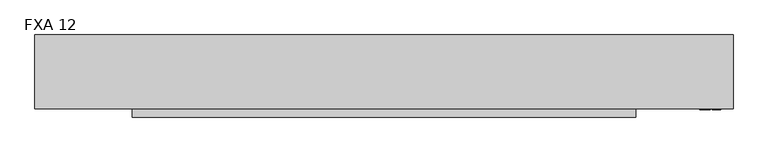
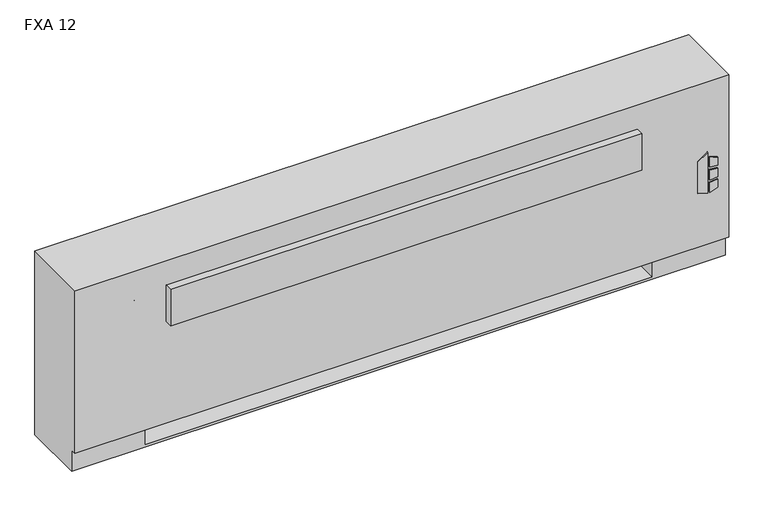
"""IFC4 building model written with IfcOpenShell, lengths in millimetres: proxy geometry, Vertical_Fan_Coil_Unit_-_FXA_-_IEC_-_2-Pipe_FS-FR_LH_2022 : FXA 12."""

from ifc_helpers import new_model, si_unit, point, frame, frame_2d, origin, place, context, project, spatial, polyline, circle_curve, trimmed, segment, composite_curve, outline, extrude, source, transform, mapped, element, save
from ifc_brep_helpers import plane_surface, revolved_surface, advanced_brep


def fxa_12_0588f1cb(model_context):
    return source(origin(), model_context, "Body", "SolidModel", [
        extrude(outline(polyline([(263.9480703, 1128.7868862), (254.0, 1160.9602728), (396.1709244, 1160.9602728), (373.1489183, 1128.7868862), (263.9480703, 1128.7868862)])), frame((0.0, 12.7, 0.0), z_axis=(0.0, 1.0, 0.0), x_axis=(0.0, 0.0, 1.0)), (0.0, 0.0, 1.0), 3.175),
        extrude(outline(polyline([(342.9473557, 1167.7186058), (339.7449632, 1193.8), (368.9738042, 1193.8), (377.0382193, 1167.7186058), (342.9473557, 1167.7186058)])), frame((0.0, 12.7, 0.0), z_axis=(0.0, 1.0, 0.0), x_axis=(0.0, 0.0, 1.0)), (0.0, 0.0, 1.0), 3.175),
        extrude(outline(polyline([(291.0838288, 1193.8), (287.4183279, 1167.7186058), (254.0, 1167.7186058), (262.6342372, 1193.8), (291.0838288, 1193.8)])), frame((0.0, 12.7, 0.0), z_axis=(0.0, 1.0, 0.0), x_axis=(0.0, 0.0, 1.0)), (0.0, 0.0, 1.0), 3.175),
        extrude(outline(polyline([(330.3989903, 1193.8), (332.6808166, 1167.7186058), (296.7432681, 1167.7186058), (299.4845331, 1193.8), (330.3989903, 1193.8)])), frame((0.0, 12.7, 0.0), z_axis=(0.0, 1.0, 0.0), x_axis=(0.0, 0.0, 1.0)), (0.0, 0.0, 1.0), 3.175),
        extrude(outline(polyline([(1111.25, 223.266), (1111.25, 81.534), (990.6, 81.534), (990.6, 223.266), (1111.25, 223.266)])), frame((0.0, 0.0, 327.025), z_axis=(0.0, 0.0, 1.0), x_axis=(1.0, 0.0, 0.0)), (0.0, 0.0, 1.0), 260.35),
        extrude(outline(composite_curve([segment(trimmed(circle_curve(frame_2d((-749.3, 130.175)), 9.525), [point((-758.825, 130.175))], [point((-739.775, 130.175))], False, "CARTESIAN"), True, "CONTINUOUS"), segment(trimmed(circle_curve(frame_2d((-749.3, 130.175)), 9.525), [point((-739.775, 130.175))], [point((-758.825, 130.175))], False, "CARTESIAN"), True, "CONTINUOUS")], self_intersect=False)), frame((0.0, 0.0, 101.6), z_axis=(0.0, 0.0, 1.0), x_axis=(1.0, 0.0, 0.0)), (0.0, 0.0, 1.0), 25.4),
        extrude(outline(polyline([(-850.9, 63.5), (-850.9, 196.85), (-685.8, 196.85), (-685.8, 63.5), (-850.9, 63.5)])), frame((0.0, 0.0, 127.0), z_axis=(0.0, 0.0, 1.0), x_axis=(1.0, 0.0, 0.0)), (0.0, 0.0, 1.0), 50.8),
        extrude(outline(polyline([(930.275, -9.525), (-625.475, -9.525), (-625.475, 15.875), (930.275, 15.875), (930.275, -9.525)])), frame((0.0, 0.0, 428.625), z_axis=(0.0, 0.0, 1.0), x_axis=(1.0, 0.0, 0.0)), (0.0, 0.0, 1.0), 127.0),
        extrude(outline(composite_curve([segment(trimmed(circle_curve(frame_2d((93.1926, 485.5972)), 7.9375), [point((93.1926, 493.5347))], [point((93.1926, 477.6597))], False, "CARTESIAN"), True, "CONTINUOUS"), segment(trimmed(circle_curve(frame_2d((93.1926, 485.5972)), 7.9375), [point((93.1926, 477.6597))], [point((93.1926, 493.5347))], False, "CARTESIAN"), True, "CONTINUOUS")], self_intersect=False)), frame((-736.6, 0.0, 0.0), z_axis=(1.0, 0.0, 0.0), x_axis=(0.0, 1.0, 0.0)), (0.0, 0.0, 1.0), 50.8),
        extrude(outline(composite_curve([segment(trimmed(circle_curve(frame_2d((141.3002, 458.9526)), 7.9375), [point((141.3002, 466.8901))], [point((141.3002, 451.0151))], False, "CARTESIAN"), True, "CONTINUOUS"), segment(trimmed(circle_curve(frame_2d((141.3002, 458.9526)), 7.9375), [point((141.3002, 451.0151))], [point((141.3002, 466.8901))], False, "CARTESIAN"), True, "CONTINUOUS")], self_intersect=False)), frame((-736.6, 0.0, 0.0), z_axis=(1.0, 0.0, 0.0), x_axis=(0.0, 1.0, 0.0)), (0.0, 0.0, 1.0), 50.8),
        advanced_brep(
        [(1231.9, 244.475, 641.35), (-927.1, 244.475, 641.35), (-927.1, 15.875, 641.35), (1231.9, 15.875, 641.35), (-927.1, 244.475, 0.0), (1231.9, 244.475, 0.0), (1231.9, 34.925, 0.0), (-927.1, 34.925, 0.0), (990.6, 244.475, 73.025), (1219.2, 244.475, 73.025), (1219.2, 244.475, 628.65), (990.6, 244.475, 628.65), (990.6, 244.475, 414.8650565), (1019.175, 244.475, 414.8650565), (1019.175, 244.475, 385.2349435), (990.6, 244.475, 385.2349435), (990.6, 244.475, 287.3375), (1019.175, 244.475, 287.3375), (1019.175, 244.475, 258.7625), (990.6, 244.475, 258.7625), (990.6, 244.475, 141.2875), (1019.175, 244.475, 141.2875), (1019.175, 244.475, 112.7125), (990.6, 244.475, 112.7125), (-685.8, 244.475, 628.65), (-914.4, 244.475, 628.65), (-914.4, 244.475, 73.025), (-685.8, 244.475, 73.025), (-685.8, 244.475, 112.7125), (-714.375, 244.475, 112.7125), (-714.375, 244.475, 141.2875), (-685.8, 244.475, 141.2875), (-685.8, 244.475, 258.7625), (-714.375, 244.475, 258.7625), (-714.375, 244.475, 287.3375), (-685.8, 244.475, 287.3375), (-685.8, 244.475, 385.2349435), (-714.375, 244.475, 385.2349435), (-714.375, 244.475, 414.8650565), (-685.8, 244.475, 414.8650565), (1008.8626, 244.475, 127.0), (997.7374, 244.475, 127.0), (1008.8626, 244.475, 400.05), (997.7374, 244.475, 400.05), (1008.8626, 244.475, 273.05), (997.7374, 244.475, 273.05), (-692.9374, 244.475, 127.0), (-704.0626, 244.475, 127.0), (-692.9374, 244.475, 273.05), (-704.0626, 244.475, 273.05), (-692.9374, 244.475, 400.05), (-704.0626, 244.475, 400.05), (-927.1, 34.925, 73.025), (-927.1, 15.875, 73.025), (1231.9, 15.875, 73.025), (1231.9, 34.925, 73.025), (-685.8, 34.925, 73.025), (-685.8, 219.075, 73.025), (990.6, 219.075, 73.025), (990.6, 34.925, 73.025), (990.6, 34.925, 6.35), (-685.8, 34.925, 6.35), (990.6, 41.275, 628.65), (1219.2, 41.275, 628.65), (1219.2, 41.275, 73.025), (990.6, 41.275, 73.025), (-685.8, 41.275, 628.65), (-685.8, 41.275, 73.025), (-914.4, 41.275, 73.025), (-914.4, 41.275, 628.65), (990.6, 219.075, 73.025), (990.6, 238.125, 112.7125), (990.6, 238.125, 141.2875), (990.6, 238.125, 258.7625), (990.6, 238.125, 287.3375), (990.6, 238.125, 385.2349435), (990.6, 238.125, 414.8650565), (-685.8, 219.075, 73.025), (-685.8, 238.125, 414.8650565), (-685.8, 238.125, 385.2349435), (-685.8, 238.125, 287.3375), (-685.8, 238.125, 258.7625), (-685.8, 238.125, 141.2875), (-685.8, 238.125, 112.7125), (-685.8, 219.075, 6.35), (990.6, 219.075, 6.35), (1019.175, 238.125, 112.7125), (1019.175, 238.125, 141.2875), (997.7374, 238.125, 127.0), (1008.8626, 238.125, 127.0), (1019.175, 238.125, 258.7625), (1019.175, 238.125, 287.3375), (997.7374, 238.125, 273.05), (1008.8626, 238.125, 273.05), (1019.175, 238.125, 385.2349435), (1019.175, 238.125, 414.8650565), (997.7374, 238.125, 400.05), (1008.8626, 238.125, 400.05), (-714.375, 238.125, 141.2875), (-714.375, 238.125, 112.7125), (-704.0626, 238.125, 127.0), (-692.9374, 238.125, 127.0), (-714.375, 238.125, 287.3375), (-714.375, 238.125, 258.7625), (-704.0626, 238.125, 273.05), (-692.9374, 238.125, 273.05), (-714.375, 238.125, 414.8650565), (-714.375, 238.125, 385.2349435), (-704.0626, 238.125, 400.05), (-692.9374, 238.125, 400.05)],
        [
            (0, 1),
            (1, 2),
            (2, 3),
            (3, 0),
            (4, 5),
            (5, 6),
            (6, 7),
            (7, 4),
            (0, 5),
            (4, 1),
            (8, 9),
            (9, 10),
            (10, 11),
            (11, 12),
            (12, 13),
            (13, 14),
            (14, 15),
            (15, 16),
            (16, 17),
            (17, 18),
            (18, 19),
            (19, 20),
            (20, 21),
            (21, 22),
            (22, 23),
            (23, 8),
            (24, 25),
            (25, 26),
            (26, 27),
            (27, 28),
            (28, 29),
            (29, 30),
            (30, 31),
            (31, 32),
            (32, 33),
            (33, 34),
            (34, 35),
            (35, 36),
            (36, 37),
            (37, 38),
            (38, 39),
            (39, 24),
            (40, 41, circle_curve(frame((1003.3, 244.475, 127.0), z_axis=(0.0, -1.0, 0.0), x_axis=(-1.0, 0.0, 0.0)), 5.5626)),
            (41, 40, circle_curve(frame((1003.3, 244.475, 127.0), z_axis=(0.0, -1.0, 0.0), x_axis=(-1.0, 0.0, 0.0)), 5.5626)),
            (42, 43, circle_curve(frame((1003.3, 244.475, 400.05), z_axis=(0.0, -1.0, 0.0), x_axis=(-1.0, 0.0, 0.0)), 5.5626)),
            (43, 42, circle_curve(frame((1003.3, 244.475, 400.05), z_axis=(0.0, -1.0, 0.0), x_axis=(-1.0, 0.0, 0.0)), 5.5626)),
            (44, 45, circle_curve(frame((1003.3, 244.475, 273.05), z_axis=(0.0, -1.0, 0.0), x_axis=(-1.0, 0.0, 0.0)), 5.5626)),
            (45, 44, circle_curve(frame((1003.3, 244.475, 273.05), z_axis=(0.0, -1.0, 0.0), x_axis=(-1.0, 0.0, 0.0)), 5.5626)),
            (46, 47, circle_curve(frame((-698.5, 244.475, 127.0), z_axis=(0.0, -1.0, 0.0), x_axis=(-1.0, 0.0, 0.0)), 5.5626)),
            (47, 46, circle_curve(frame((-698.5, 244.475, 127.0), z_axis=(0.0, -1.0, 0.0), x_axis=(-1.0, 0.0, 0.0)), 5.5626)),
            (48, 49, circle_curve(frame((-698.5, 244.475, 273.05), z_axis=(0.0, -1.0, 0.0), x_axis=(-1.0, 0.0, 0.0)), 5.5626)),
            (49, 48, circle_curve(frame((-698.5, 244.475, 273.05), z_axis=(0.0, -1.0, 0.0), x_axis=(-1.0, 0.0, 0.0)), 5.5626)),
            (50, 51, circle_curve(frame((-698.5, 244.475, 400.05), z_axis=(0.0, -1.0, 0.0), x_axis=(-1.0, 0.0, 0.0)), 5.5626)),
            (51, 50, circle_curve(frame((-698.5, 244.475, 400.05), z_axis=(0.0, -1.0, 0.0), x_axis=(-1.0, 0.0, 0.0)), 5.5626)),
            (7, 52),
            (52, 53),
            (53, 2),
            (53, 54),
            (54, 3),
            (54, 55),
            (55, 6),
            (52, 56),
            (56, 57),
            (57, 58),
            (58, 59),
            (59, 55),
            (59, 60),
            (60, 61),
            (61, 56),
            (62, 63),
            (63, 64),
            (64, 65),
            (65, 62),
            (66, 67),
            (67, 68),
            (68, 69),
            (69, 66),
            (65, 70),
            (70, 8),
            (23, 71),
            (71, 72),
            (72, 20),
            (19, 73),
            (73, 74),
            (74, 16),
            (15, 75),
            (75, 76),
            (76, 12),
            (11, 62),
            (64, 9),
            (63, 10),
            (69, 25),
            (24, 66),
            (68, 26),
            (67, 77),
            (77, 27),
            (39, 78),
            (78, 79),
            (79, 36),
            (35, 80),
            (80, 81),
            (81, 32),
            (31, 82),
            (82, 83),
            (83, 28),
            (57, 84),
            (84, 85),
            (85, 58),
            (85, 60),
            (84, 61),
            (71, 86),
            (86, 87),
            (87, 72),
            (88, 89, circle_curve(frame((1003.3, 238.125, 127.0), z_axis=(0.0, 1.0, 0.0), x_axis=(-1.0, 0.0, 0.0)), 5.5626)),
            (89, 88, circle_curve(frame((1003.3, 238.125, 127.0), z_axis=(0.0, 1.0, 0.0), x_axis=(-1.0, 0.0, 0.0)), 5.5626)),
            (73, 90),
            (90, 91),
            (91, 74),
            (92, 93, circle_curve(frame((1003.3, 238.125, 273.05), z_axis=(0.0, 1.0, 0.0), x_axis=(-1.0, 0.0, 0.0)), 5.5626)),
            (93, 92, circle_curve(frame((1003.3, 238.125, 273.05), z_axis=(0.0, 1.0, 0.0), x_axis=(-1.0, 0.0, 0.0)), 5.5626)),
            (75, 94),
            (94, 95),
            (95, 76),
            (96, 97, circle_curve(frame((1003.3, 238.125, 400.05), z_axis=(0.0, 1.0, 0.0), x_axis=(-1.0, 0.0, 0.0)), 5.5626)),
            (97, 96, circle_curve(frame((1003.3, 238.125, 400.05), z_axis=(0.0, 1.0, 0.0), x_axis=(-1.0, 0.0, 0.0)), 5.5626)),
            (98, 99),
            (99, 83),
            (82, 98),
            (100, 101, circle_curve(frame((-698.5, 238.125, 127.0), z_axis=(0.0, 1.0, 0.0), x_axis=(-1.0, 0.0, 0.0)), 5.5626)),
            (101, 100, circle_curve(frame((-698.5, 238.125, 127.0), z_axis=(0.0, 1.0, 0.0), x_axis=(-1.0, 0.0, 0.0)), 5.5626)),
            (102, 103),
            (103, 81),
            (80, 102),
            (104, 105, circle_curve(frame((-698.5, 238.125, 273.05), z_axis=(0.0, 1.0, 0.0), x_axis=(-1.0, 0.0, 0.0)), 5.5626)),
            (105, 104, circle_curve(frame((-698.5, 238.125, 273.05), z_axis=(0.0, 1.0, 0.0), x_axis=(-1.0, 0.0, 0.0)), 5.5626)),
            (106, 107),
            (107, 79),
            (78, 106),
            (108, 109, circle_curve(frame((-698.5, 238.125, 400.05), z_axis=(0.0, 1.0, 0.0), x_axis=(-1.0, 0.0, 0.0)), 5.5626)),
            (109, 108, circle_curve(frame((-698.5, 238.125, 400.05), z_axis=(0.0, 1.0, 0.0), x_axis=(-1.0, 0.0, 0.0)), 5.5626)),
            (87, 21),
            (86, 22),
            (91, 17),
            (90, 18),
            (95, 13),
            (94, 14),
            (30, 98),
            (99, 29),
            (34, 102),
            (103, 33),
            (38, 106),
            (107, 37),
            (88, 41),
            (40, 89),
            (96, 43),
            (42, 97),
            (92, 45),
            (44, 93),
            (100, 47),
            (46, 101),
            (104, 49),
            (48, 105),
            (108, 51),
            (50, 109),
        ],
        [
            plane_surface(frame((-927.1, 244.475, 641.35), z_axis=(0.0, 0.0, 1.0), x_axis=(-1.0, 0.0, 0.0))),
            plane_surface(frame((-927.1, 244.475, 0.0), z_axis=(0.0, 0.0, -1.0), x_axis=(1.0, 0.0, 0.0))),
            plane_surface(frame((1231.9, 244.475, 641.35), z_axis=(0.0, 1.0, 0.0), x_axis=(0.0, 0.0, -1.0))),
            plane_surface(frame((-927.1, 244.475, 641.35), z_axis=(-1.0, 0.0, 0.0), x_axis=(0.0, 0.0, -1.0))),
            plane_surface(frame((-927.1, 15.875, 641.35), z_axis=(0.0, -1.0, 0.0), x_axis=(0.0, 0.0, -1.0))),
            plane_surface(frame((1231.9, 15.875, 641.35), z_axis=(1.0, 0.0, 0.0), x_axis=(0.0, 0.0, -1.0))),
            plane_surface(frame((-927.1, 15.875, 73.025), z_axis=(0.0, 0.0, -1.0), x_axis=(1.0, 0.0, 0.0))),
            plane_surface(frame((-927.1, 34.925, 73.025), z_axis=(0.0, -1.0, 0.0), x_axis=(1.0, 0.0, 0.0))),
            plane_surface(frame((990.6, 41.275, 628.65), z_axis=(0.0, 1.0, 0.0), x_axis=(0.0, 0.0, -1.0))),
            plane_surface(frame((990.6, 41.275, 628.65), z_axis=(1.0, 0.0, 0.0), x_axis=(0.0, 1.0, 0.0))),
            plane_surface(frame((990.6, 41.275, 73.025), z_axis=(0.0, 0.0, 1.0), x_axis=(0.0, 1.0, 0.0))),
            plane_surface(frame((1219.2, 41.275, 73.025), z_axis=(-1.0, 0.0, 0.0), x_axis=(0.0, 1.0, 0.0))),
            plane_surface(frame((1219.2, 41.275, 628.65), z_axis=(0.0, 0.0, -1.0), x_axis=(0.0, 1.0, 0.0))),
            plane_surface(frame((-685.8, 41.275, 628.65), z_axis=(0.0, 0.0, -1.0), x_axis=(0.0, 1.0, 0.0))),
            plane_surface(frame((-914.4, 41.275, 628.65), z_axis=(1.0, 0.0, 0.0), x_axis=(0.0, 1.0, 0.0))),
            plane_surface(frame((-914.4, 41.275, 73.025), z_axis=(0.0, 0.0, 1.0), x_axis=(0.0, 1.0, 0.0))),
            plane_surface(frame((-685.8, 41.275, 73.025), z_axis=(-1.0, 0.0, 0.0), x_axis=(0.0, 1.0, 0.0))),
            plane_surface(frame((990.6, 219.075, 73.025), z_axis=(0.0, -1.0, 0.0), x_axis=(0.0, 0.0, -1.0))),
            plane_surface(frame((990.6, 219.075, 73.025), z_axis=(-1.0, 0.0, 0.0), x_axis=(0.0, -1.0, 0.0))),
            plane_surface(frame((990.6, 219.075, 6.35), z_axis=(0.0, 0.0, 1.0), x_axis=(0.0, -1.0, 0.0))),
            plane_surface(frame((-685.8, 219.075, 6.35), z_axis=(1.0, 0.0, 0.0), x_axis=(0.0, -1.0, 0.0))),
            plane_surface(frame((1019.175, 238.125, 141.2875), z_axis=(0.0, -1.0, 0.0), x_axis=(-1.0, 0.0, 0.0))),
            plane_surface(frame((990.6, 244.475, 141.2875), z_axis=(0.0, 0.0, 1.0), x_axis=(0.0, -1.0, 0.0))),
            plane_surface(frame((1019.175, 244.475, 141.2875), z_axis=(1.0, 0.0, 0.0), x_axis=(0.0, -1.0, 0.0))),
            plane_surface(frame((1019.175, 244.475, 112.7125), z_axis=(0.0, 0.0, -1.0), x_axis=(0.0, -1.0, 0.0))),
            plane_surface(frame((990.6, 244.475, 287.3375), z_axis=(0.0, 0.0, 1.0), x_axis=(0.0, -1.0, 0.0))),
            plane_surface(frame((1019.175, 244.475, 287.3375), z_axis=(1.0, 0.0, 0.0), x_axis=(0.0, -1.0, 0.0))),
            plane_surface(frame((1019.175, 244.475, 258.7625), z_axis=(0.0, 0.0, -1.0), x_axis=(0.0, -1.0, 0.0))),
            plane_surface(frame((990.6, 244.475, 414.8650565), z_axis=(0.0, 0.0, 1.0), x_axis=(0.0, -1.0, 0.0))),
            plane_surface(frame((1019.175, 244.475, 414.8650565), z_axis=(1.0, 0.0, 0.0), x_axis=(0.0, -1.0, 0.0))),
            plane_surface(frame((1019.175, 244.475, 385.2349435), z_axis=(0.0, 0.0, -1.0), x_axis=(0.0, -1.0, 0.0))),
            plane_surface(frame((-714.375, 244.475, 141.2875), z_axis=(0.0, 0.0, 1.0), x_axis=(0.0, -1.0, 0.0))),
            plane_surface(frame((-685.8, 244.475, 112.7125), z_axis=(0.0, 0.0, -1.0), x_axis=(0.0, -1.0, 0.0))),
            plane_surface(frame((-714.375, 244.475, 112.7125), z_axis=(-1.0, 0.0, 0.0), x_axis=(0.0, -1.0, 0.0))),
            plane_surface(frame((-714.375, 244.475, 287.3375), z_axis=(0.0, 0.0, 1.0), x_axis=(0.0, -1.0, 0.0))),
            plane_surface(frame((-685.8, 244.475, 258.7625), z_axis=(0.0, 0.0, -1.0), x_axis=(0.0, -1.0, 0.0))),
            plane_surface(frame((-714.375, 244.475, 258.7625), z_axis=(-1.0, 0.0, 0.0), x_axis=(0.0, -1.0, 0.0))),
            plane_surface(frame((-714.375, 244.475, 414.8650565), z_axis=(0.0, 0.0, 1.0), x_axis=(0.0, -1.0, 0.0))),
            plane_surface(frame((-685.8, 244.475, 385.2349435), z_axis=(0.0, 0.0, -1.0), x_axis=(0.0, -1.0, 0.0))),
            plane_surface(frame((-714.375, 244.475, 385.2349435), z_axis=(-1.0, 0.0, 0.0), x_axis=(0.0, -1.0, 0.0))),
            revolved_surface(polyline([(997.7374, 238.125, 127.0), (997.7374, 244.475, 127.0)]), (1003.3, 244.475, 127.0), (0.0, -1.0, 0.0)),
            revolved_surface(polyline([(997.7374, 238.125, 400.05), (997.7374, 244.475, 400.05)]), (1003.3, 244.475, 400.05), (0.0, -1.0, 0.0)),
            revolved_surface(polyline([(997.7374, 238.125, 273.05), (997.7374, 244.475, 273.05)]), (1003.3, 244.475, 273.05), (0.0, -1.0, 0.0)),
            revolved_surface(polyline([(-704.0626, 238.125, 127.0), (-704.0626, 244.475, 127.0)]), (-698.5, 244.475, 127.0), (0.0, -1.0, 0.0)),
            revolved_surface(polyline([(-704.0626, 238.125, 273.05), (-704.0626, 244.475, 273.05)]), (-698.5, 244.475, 273.05), (0.0, -1.0, 0.0)),
            revolved_surface(polyline([(-704.0626, 238.125, 400.05), (-704.0626, 244.475, 400.05)]), (-698.5, 244.475, 400.05), (0.0, -1.0, 0.0)),
        ],
        [
            (0, [[1, 2, 3, 4]]),
            (1, [[5, 6, 7, 8]]),
            (2, [[-1, 9, -5, 10], [11, 12, 13, 14, 15, 16, 17, 18, 19, 20, 21, 22, 23, 24, 25, 26], [27, 28, 29, 30, 31, 32, 33, 34, 35, 36, 37, 38, 39, 40, 41, 42], [43, 44], [45, 46], [47, 48], [49, 50], [51, 52], [53, 54]]),
            (3, [[-2, -10, -8, 55, 56, 57]]),
            (4, [[-3, -57, 58, 59]]),
            (5, [[-4, -59, 60, 61, -6, -9]]),
            (6, [[-56, 62, 63, 64, 65, 66, -60, -58]]),
            (7, [[-7, -61, -66, 67, 68, 69, -62, -55]]),
            (8, [[70, 71, 72, 73]]),
            (8, [[74, 75, 76, 77]]),
            (9, [[-73, 78, 79, -26, 80, 81, 82, -22, 83, 84, 85, -18, 86, 87, 88, -14, 89]]),
            (10, [[-72, 90, -11, -79, -78]]),
            (11, [[-71, 91, -12, -90]]),
            (12, [[-70, -89, -13, -91]]),
            (13, [[-77, 92, -27, 93]]),
            (14, [[-76, 94, -28, -92]]),
            (15, [[-75, 95, 96, -29, -94]]),
            (16, [[-74, -93, -42, 97, 98, 99, -38, 100, 101, 102, -34, 103, 104, 105, -30, -96, -95]]),
            (17, [[-64, 106, 107, 108]]),
            (18, [[-108, 109, -67, -65]]),
            (19, [[-107, 110, -68, -109]]),
            (20, [[-106, -63, -69, -110]]),
            (21, [[111, 112, 113, -81], [114, 115]]),
            (21, [[116, 117, 118, -84], [119, 120]]),
            (21, [[121, 122, 123, -87], [124, 125]]),
            (21, [[126, 127, -104, 128], [129, 130]]),
            (21, [[131, 132, -101, 133], [134, 135]]),
            (21, [[136, 137, -98, 138], [139, 140]]),
            (22, [[-113, 141, -23, -82]]),
            (23, [[-112, 142, -24, -141]]),
            (24, [[-111, -80, -25, -142]]),
            (25, [[-118, 143, -19, -85]]),
            (26, [[-117, 144, -20, -143]]),
            (27, [[-116, -83, -21, -144]]),
            (28, [[-123, 145, -15, -88]]),
            (29, [[-122, 146, -16, -145]]),
            (30, [[-121, -86, -17, -146]]),
            (31, [[-128, -103, -33, 147]]),
            (32, [[-127, 148, -31, -105]]),
            (33, [[-126, -147, -32, -148]]),
            (34, [[-133, -100, -37, 149]]),
            (35, [[-132, 150, -35, -102]]),
            (36, [[-131, -149, -36, -150]]),
            (37, [[-138, -97, -41, 151]]),
            (38, [[-137, 152, -39, -99]]),
            (39, [[-136, -151, -40, -152]]),
            (40, [[153, -43, 154, -114]]),
            (40, [[-153, -115, -154, -44]]),
            (41, [[155, -45, 156, -124]]),
            (41, [[-155, -125, -156, -46]]),
            (42, [[157, -47, 158, -119]]),
            (42, [[-157, -120, -158, -48]]),
            (43, [[159, -49, 160, -129]]),
            (43, [[-159, -130, -160, -50]]),
            (44, [[161, -51, 162, -134]]),
            (44, [[-161, -135, -162, -52]]),
            (45, [[163, -53, 164, -139]]),
            (45, [[-163, -140, -164, -54]]),
        ],
    ),
    ])


if __name__ == "__main__":
    model = new_model("IFC4")
    model_context = context("Model", 3, world=origin())
    ifc_project = project(units=[si_unit("LENGTHUNIT", "METRE", prefix="MILLI")], contexts=[model_context])
    site = spatial("IfcSite", under=ifc_project)
    building = spatial("IfcBuilding", under=site)
    placement = place(None, origin())
    fxa_12_shape = fxa_12_0588f1cb(model_context)
    element("IfcBuildingElementProxy", 1, Name="Vertical_Fan_Coil_Unit_-_FXA_-_IEC_-_2-Pipe_FS-FR_LH_2022 : FXA 12", ObjectType="Vertical_Fan_Coil_Unit_-_FXA_-_IEC_-_2-Pipe_FS-FR_LH_2022 : FXA 12", at=placement, inside=building, context=model_context, shape_type="MappedRepresentation", body=[
        mapped(fxa_12_shape, transform((0.0, 0.0, 0.0), x_axis=(1.0, 0.0, 0.0), y_axis=(0.0, 1.0, 0.0), z_axis=(0.0, 0.0, 1.0))),
    ])
    save(model, "model.ifc")
